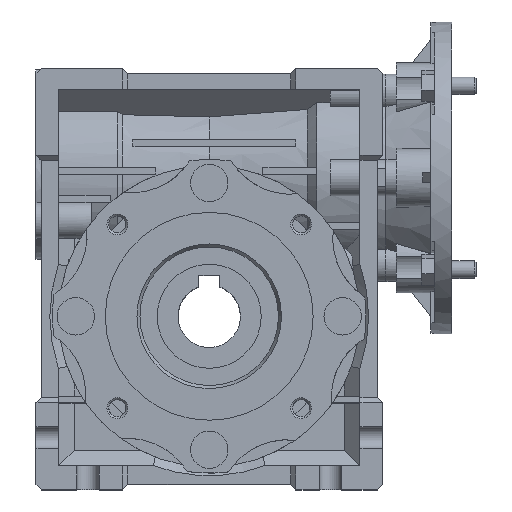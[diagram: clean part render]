
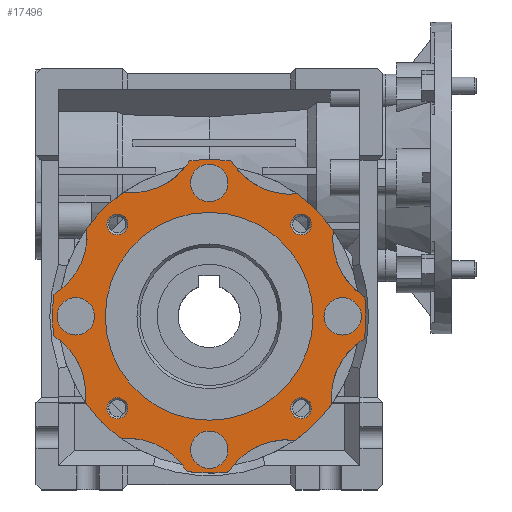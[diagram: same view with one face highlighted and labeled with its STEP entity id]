
A CAD part, top view. The second image highlights one B-rep face of the part: STEP entity #17496.
In plain terms, the highlighted planar face has unit normal (0, 0, 1) as drawn and (-1, 0, 0) by its records, which use the part's own axes.
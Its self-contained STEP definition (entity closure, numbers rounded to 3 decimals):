
#819=CIRCLE('',#18444,43.5);
#823=CIRCLE('',#18449,43.5);
#828=CIRCLE('',#18455,43.5);
#987=CIRCLE('',#18853,43.5);
#988=CIRCLE('',#18855,20.);
#989=CIRCLE('',#18857,20.);
#990=CIRCLE('',#18859,20.);
#991=CIRCLE('',#18861,20.);
#992=CIRCLE('',#18863,20.);
#993=CIRCLE('',#18865,20.);
#994=CIRCLE('',#18867,20.);
#995=CIRCLE('',#18869,20.);
#996=CIRCLE('',#18871,45.25);
#997=CIRCLE('',#18873,45.25);
#998=CIRCLE('',#18875,45.25);
#999=CIRCLE('',#18877,45.25);
#1000=CIRCLE('',#18879,3.);
#1001=CIRCLE('',#18880,3.);
#1002=CIRCLE('',#18881,3.);
#1003=CIRCLE('',#18882,3.);
#1004=CIRCLE('',#18883,5.4);
#1005=CIRCLE('',#18884,5.4);
#1006=CIRCLE('',#18885,5.4);
#1007=CIRCLE('',#18886,5.4);
#1008=CIRCLE('',#18887,30.);
#3591=ORIENTED_EDGE('',*,*,#7943,.T.);
#3592=ORIENTED_EDGE('',*,*,#7944,.T.);
#3593=ORIENTED_EDGE('',*,*,#7945,.T.);
#3594=ORIENTED_EDGE('',*,*,#7946,.T.);
#3595=ORIENTED_EDGE('',*,*,#7947,.T.);
#3596=ORIENTED_EDGE('',*,*,#7948,.T.);
#3597=ORIENTED_EDGE('',*,*,#7949,.T.);
#3598=ORIENTED_EDGE('',*,*,#7950,.T.);
#3599=ORIENTED_EDGE('',*,*,#7951,.T.);
#3600=ORIENTED_EDGE('',*,*,#7923,.T.);
#3601=ORIENTED_EDGE('',*,*,#7320,.F.);
#3602=ORIENTED_EDGE('',*,*,#7926,.T.);
#3603=ORIENTED_EDGE('',*,*,#7939,.F.);
#3604=ORIENTED_EDGE('',*,*,#7927,.T.);
#3605=ORIENTED_EDGE('',*,*,#7300,.F.);
#3606=ORIENTED_EDGE('',*,*,#7930,.T.);
#3607=ORIENTED_EDGE('',*,*,#7940,.F.);
#3608=ORIENTED_EDGE('',*,*,#7931,.T.);
#3609=ORIENTED_EDGE('',*,*,#7308,.F.);
#3610=ORIENTED_EDGE('',*,*,#7934,.T.);
#3611=ORIENTED_EDGE('',*,*,#7941,.F.);
#3612=ORIENTED_EDGE('',*,*,#7935,.T.);
#3613=ORIENTED_EDGE('',*,*,#7919,.F.);
#3614=ORIENTED_EDGE('',*,*,#7938,.T.);
#3615=ORIENTED_EDGE('',*,*,#7942,.F.);
#7300=EDGE_CURVE('',#9810,#9811,#819,.T.);
#7308=EDGE_CURVE('',#9818,#9819,#823,.T.);
#7320=EDGE_CURVE('',#9830,#9831,#828,.T.);
#7919=EDGE_CURVE('',#10148,#10149,#987,.T.);
#7923=EDGE_CURVE('',#10150,#9831,#988,.T.);
#7926=EDGE_CURVE('',#9830,#10151,#989,.T.);
#7927=EDGE_CURVE('',#10152,#9811,#990,.T.);
#7930=EDGE_CURVE('',#9810,#10153,#991,.T.);
#7931=EDGE_CURVE('',#10154,#9819,#992,.T.);
#7934=EDGE_CURVE('',#9818,#10155,#993,.T.);
#7935=EDGE_CURVE('',#10156,#10149,#994,.T.);
#7938=EDGE_CURVE('',#10148,#10157,#995,.T.);
#7939=EDGE_CURVE('',#10152,#10151,#996,.T.);
#7940=EDGE_CURVE('',#10154,#10153,#997,.T.);
#7941=EDGE_CURVE('',#10156,#10155,#998,.T.);
#7942=EDGE_CURVE('',#10150,#10157,#999,.T.);
#7943=EDGE_CURVE('',#10158,#10158,#1000,.T.);
#7944=EDGE_CURVE('',#10159,#10159,#1001,.T.);
#7945=EDGE_CURVE('',#10160,#10160,#1002,.T.);
#7946=EDGE_CURVE('',#10161,#10161,#1003,.T.);
#7947=EDGE_CURVE('',#10162,#10162,#1004,.T.);
#7948=EDGE_CURVE('',#10163,#10163,#1005,.T.);
#7949=EDGE_CURVE('',#10164,#10164,#1006,.T.);
#7950=EDGE_CURVE('',#10165,#10165,#1007,.T.);
#7951=EDGE_CURVE('',#10166,#10166,#1008,.T.);
#9810=VERTEX_POINT('',#26609);
#9811=VERTEX_POINT('',#26611);
#9818=VERTEX_POINT('',#26626);
#9819=VERTEX_POINT('',#26628);
#9830=VERTEX_POINT('',#26654);
#9831=VERTEX_POINT('',#26656);
#10148=VERTEX_POINT('',#27959);
#10149=VERTEX_POINT('',#27961);
#10150=VERTEX_POINT('',#27967);
#10151=VERTEX_POINT('',#27971);
#10152=VERTEX_POINT('',#27975);
#10153=VERTEX_POINT('',#27979);
#10154=VERTEX_POINT('',#27983);
#10155=VERTEX_POINT('',#27987);
#10156=VERTEX_POINT('',#27991);
#10157=VERTEX_POINT('',#27995);
#10158=VERTEX_POINT('',#28007);
#10159=VERTEX_POINT('',#28009);
#10160=VERTEX_POINT('',#28011);
#10161=VERTEX_POINT('',#28013);
#10162=VERTEX_POINT('',#28015);
#10163=VERTEX_POINT('',#28017);
#10164=VERTEX_POINT('',#28019);
#10165=VERTEX_POINT('',#28021);
#10166=VERTEX_POINT('',#28023);
#14565=EDGE_LOOP('',(#3591));
#14566=EDGE_LOOP('',(#3592));
#14567=EDGE_LOOP('',(#3593));
#14568=EDGE_LOOP('',(#3594));
#14569=EDGE_LOOP('',(#3595));
#14570=EDGE_LOOP('',(#3596));
#14571=EDGE_LOOP('',(#3597));
#14572=EDGE_LOOP('',(#3598));
#14573=EDGE_LOOP('',(#3599));
#14574=EDGE_LOOP('',(#3600,#3601,#3602,#3603,#3604,#3605,#3606,#3607,#3608,
#3609,#3610,#3611,#3612,#3613,#3614,#3615));
#15714=FACE_BOUND('',#14565,.T.);
#15715=FACE_BOUND('',#14566,.T.);
#15716=FACE_BOUND('',#14567,.T.);
#15717=FACE_BOUND('',#14568,.T.);
#15718=FACE_BOUND('',#14569,.T.);
#15719=FACE_BOUND('',#14570,.T.);
#15720=FACE_BOUND('',#14571,.T.);
#15721=FACE_BOUND('',#14572,.T.);
#15722=FACE_BOUND('',#14573,.T.);
#15723=FACE_BOUND('',#14574,.T.);
#16736=PLANE('',#18878);
#17496=ADVANCED_FACE('',(#15714,#15715,#15716,#15717,#15718,#15719,#15720,
#15721,#15722,#15723),#16736,.F.);
#18444=AXIS2_PLACEMENT_3D('',#26610,#20925,#20926);
#18449=AXIS2_PLACEMENT_3D('',#26627,#20939,#20940);
#18455=AXIS2_PLACEMENT_3D('',#26655,#20957,#20958);
#18853=AXIS2_PLACEMENT_3D('',#27960,#22134,#22135);
#18855=AXIS2_PLACEMENT_3D('',#27966,#22141,#22142);
#18857=AXIS2_PLACEMENT_3D('',#27972,#22147,#22148);
#18859=AXIS2_PLACEMENT_3D('',#27974,#22151,#22152);
#18861=AXIS2_PLACEMENT_3D('',#27980,#22157,#22158);
#18863=AXIS2_PLACEMENT_3D('',#27982,#22161,#22162);
#18865=AXIS2_PLACEMENT_3D('',#27988,#22167,#22168);
#18867=AXIS2_PLACEMENT_3D('',#27990,#22171,#22172);
#18869=AXIS2_PLACEMENT_3D('',#27996,#22177,#22178);
#18871=AXIS2_PLACEMENT_3D('',#27998,#22181,#22182);
#18873=AXIS2_PLACEMENT_3D('',#28000,#22185,#22186);
#18875=AXIS2_PLACEMENT_3D('',#28002,#22189,#22190);
#18877=AXIS2_PLACEMENT_3D('',#28004,#22193,#22194);
#18878=AXIS2_PLACEMENT_3D('',#28005,#22195,#22196);
#18879=AXIS2_PLACEMENT_3D('',#28006,#22197,#22198);
#18880=AXIS2_PLACEMENT_3D('',#28008,#22199,#22200);
#18881=AXIS2_PLACEMENT_3D('',#28010,#22201,#22202);
#18882=AXIS2_PLACEMENT_3D('',#28012,#22203,#22204);
#18883=AXIS2_PLACEMENT_3D('',#28014,#22205,#22206);
#18884=AXIS2_PLACEMENT_3D('',#28016,#22207,#22208);
#18885=AXIS2_PLACEMENT_3D('',#28018,#22209,#22210);
#18886=AXIS2_PLACEMENT_3D('',#28020,#22211,#22212);
#18887=AXIS2_PLACEMENT_3D('',#28022,#22213,#22214);
#20925=DIRECTION('',(1.,0.,0.));
#20926=DIRECTION('',(0.,0.,-1.));
#20939=DIRECTION('',(1.,0.,0.));
#20940=DIRECTION('',(0.,0.,-1.));
#20957=DIRECTION('',(1.,0.,0.));
#20958=DIRECTION('',(0.,0.,-1.));
#22134=DIRECTION('',(1.,0.,0.));
#22135=DIRECTION('',(0.,0.,-1.));
#22141=DIRECTION('',(1.,0.,0.));
#22142=DIRECTION('',(0.,0.,-1.));
#22147=DIRECTION('',(1.,0.,0.));
#22148=DIRECTION('',(0.,0.,-1.));
#22151=DIRECTION('',(1.,0.,0.));
#22152=DIRECTION('',(0.,0.,-1.));
#22157=DIRECTION('',(1.,0.,0.));
#22158=DIRECTION('',(0.,0.,-1.));
#22161=DIRECTION('',(1.,0.,0.));
#22162=DIRECTION('',(0.,0.,-1.));
#22167=DIRECTION('',(1.,0.,0.));
#22168=DIRECTION('',(0.,0.,-1.));
#22171=DIRECTION('',(1.,0.,0.));
#22172=DIRECTION('',(0.,0.,-1.));
#22177=DIRECTION('',(1.,0.,0.));
#22178=DIRECTION('',(0.,0.,-1.));
#22181=DIRECTION('',(1.,0.,0.));
#22182=DIRECTION('',(0.,0.,-1.));
#22185=DIRECTION('',(1.,0.,0.));
#22186=DIRECTION('',(0.,0.,-1.));
#22189=DIRECTION('',(1.,0.,0.));
#22190=DIRECTION('',(0.,0.,-1.));
#22193=DIRECTION('',(1.,0.,0.));
#22194=DIRECTION('',(0.,0.,-1.));
#22195=DIRECTION('',(1.,0.,0.));
#22196=DIRECTION('',(0.,0.,-1.));
#22197=DIRECTION('',(1.,0.,0.));
#22198=DIRECTION('',(0.,0.,-1.));
#22199=DIRECTION('',(1.,0.,0.));
#22200=DIRECTION('',(0.,0.,-1.));
#22201=DIRECTION('',(1.,0.,0.));
#22202=DIRECTION('',(0.,0.,-1.));
#22203=DIRECTION('',(1.,0.,0.));
#22204=DIRECTION('',(0.,0.,-1.));
#22205=DIRECTION('',(1.,0.,0.));
#22206=DIRECTION('',(0.,0.,-1.));
#22207=DIRECTION('',(1.,0.,0.));
#22208=DIRECTION('',(0.,0.,-1.));
#22209=DIRECTION('',(1.,0.,0.));
#22210=DIRECTION('',(0.,0.,-1.));
#22211=DIRECTION('',(1.,0.,0.));
#22212=DIRECTION('',(0.,0.,-1.));
#22213=DIRECTION('',(1.,0.,0.));
#22214=DIRECTION('',(0.,0.,-1.));
#26609=CARTESIAN_POINT('',(-36.5,25.385,-35.325));
#26610=CARTESIAN_POINT('',(-36.5,0.,0.));
#26611=CARTESIAN_POINT('',(-36.5,35.762,-24.765));
#26626=CARTESIAN_POINT('',(-36.5,-35.325,-25.385));
#26627=CARTESIAN_POINT('',(-36.5,0.,0.));
#26628=CARTESIAN_POINT('',(-36.5,-24.765,-35.762));
#26654=CARTESIAN_POINT('',(-36.5,35.325,25.385));
#26655=CARTESIAN_POINT('',(-36.5,0.,0.));
#26656=CARTESIAN_POINT('',(-36.5,24.765,35.762));
#27959=CARTESIAN_POINT('',(-36.5,-25.385,35.325));
#27960=CARTESIAN_POINT('',(-36.5,0.,0.));
#27961=CARTESIAN_POINT('',(-36.5,-35.762,24.765));
#27966=CARTESIAN_POINT('',(-36.5,22.476,55.631));
#27967=CARTESIAN_POINT('',(-36.5,5.597,44.902));
#27971=CARTESIAN_POINT('',(-36.5,44.798,6.38));
#27972=CARTESIAN_POINT('',(-36.5,55.23,23.444));
#27974=CARTESIAN_POINT('',(-36.5,55.631,-22.476));
#27975=CARTESIAN_POINT('',(-36.5,44.902,-5.597));
#27979=CARTESIAN_POINT('',(-36.5,6.38,-44.798));
#27980=CARTESIAN_POINT('',(-36.5,23.444,-55.23));
#27982=CARTESIAN_POINT('',(-36.5,-22.476,-55.631));
#27983=CARTESIAN_POINT('',(-36.5,-5.597,-44.902));
#27987=CARTESIAN_POINT('',(-36.5,-44.798,-6.38));
#27988=CARTESIAN_POINT('',(-36.5,-55.23,-23.444));
#27990=CARTESIAN_POINT('',(-36.5,-55.631,22.476));
#27991=CARTESIAN_POINT('',(-36.5,-44.902,5.597));
#27995=CARTESIAN_POINT('',(-36.5,-6.38,44.798));
#27996=CARTESIAN_POINT('',(-36.5,-23.444,55.23));
#27998=CARTESIAN_POINT('',(-36.5,0.,0.));
#28000=CARTESIAN_POINT('',(-36.5,0.,0.));
#28002=CARTESIAN_POINT('',(-36.5,0.,0.));
#28004=CARTESIAN_POINT('',(-36.5,0.,0.));
#28005=CARTESIAN_POINT('',(-36.5,11.238,27.816));
#28006=CARTESIAN_POINT('',(-36.5,26.517,26.517));
#28007=CARTESIAN_POINT('',(-36.5,26.517,23.517));
#28008=CARTESIAN_POINT('',(-36.5,-26.517,26.517));
#28009=CARTESIAN_POINT('',(-36.5,-26.517,23.517));
#28010=CARTESIAN_POINT('',(-36.5,-26.517,-26.517));
#28011=CARTESIAN_POINT('',(-36.5,-26.517,-29.517));
#28012=CARTESIAN_POINT('',(-36.5,26.517,-26.517));
#28013=CARTESIAN_POINT('',(-36.5,26.517,-29.517));
#28014=CARTESIAN_POINT('',(-36.5,0.,38.5));
#28015=CARTESIAN_POINT('',(-36.5,0.,33.1));
#28016=CARTESIAN_POINT('',(-36.5,-38.5,0.));
#28017=CARTESIAN_POINT('',(-36.5,-38.5,-5.4));
#28018=CARTESIAN_POINT('',(-36.5,0.,-38.5));
#28019=CARTESIAN_POINT('',(-36.5,0.,-43.9));
#28020=CARTESIAN_POINT('',(-36.5,38.5,0.));
#28021=CARTESIAN_POINT('',(-36.5,38.5,-5.4));
#28022=CARTESIAN_POINT('',(-36.5,0.,0.));
#28023=CARTESIAN_POINT('',(-36.5,0.,-30.));
